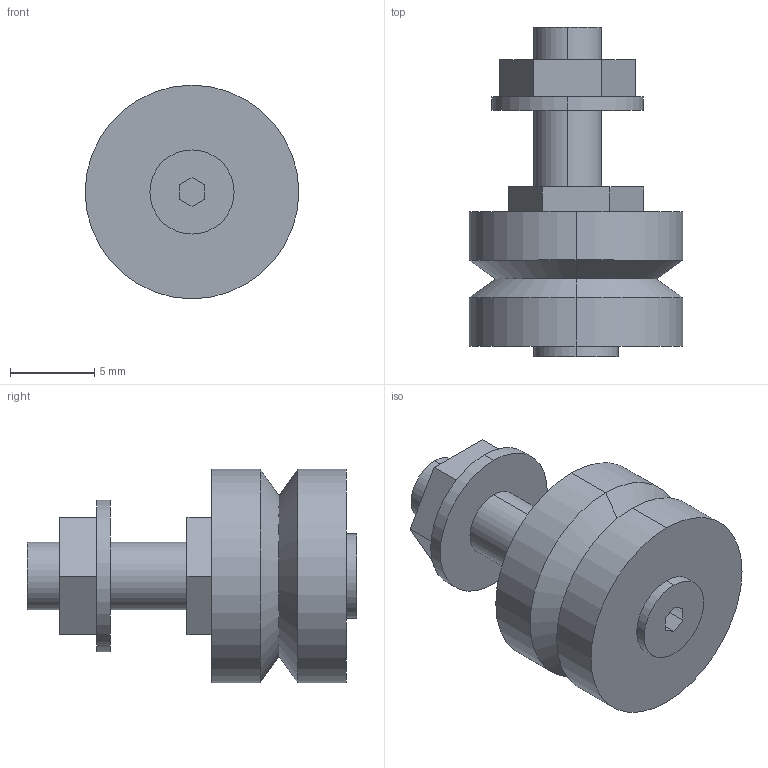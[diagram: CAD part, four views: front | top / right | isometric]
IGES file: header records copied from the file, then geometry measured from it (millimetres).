
Start section: 3D InterOp IGES (v. 2019 1.0.2), Spatial Corp. Copyright (c) 1999-2017.
Global section: file name: LJ 13 ENS.igs; native system: Spatial Corp.; preprocessor: 3D InterOp GENERIC/IGES 3.0; author: Noname; organization: Noname; date: 20220628.165350; units: millimetre
Bounding box: 12.7 x 19.6 x 12.7 mm (x, y, z)
Surface area: 935 mm2 (no closed solid volume)
Topology: 0 solids, 0 shells, 43 faces, 192 edges, 192 vertices
Faces by surface type: extrusion 27, revolution 16
